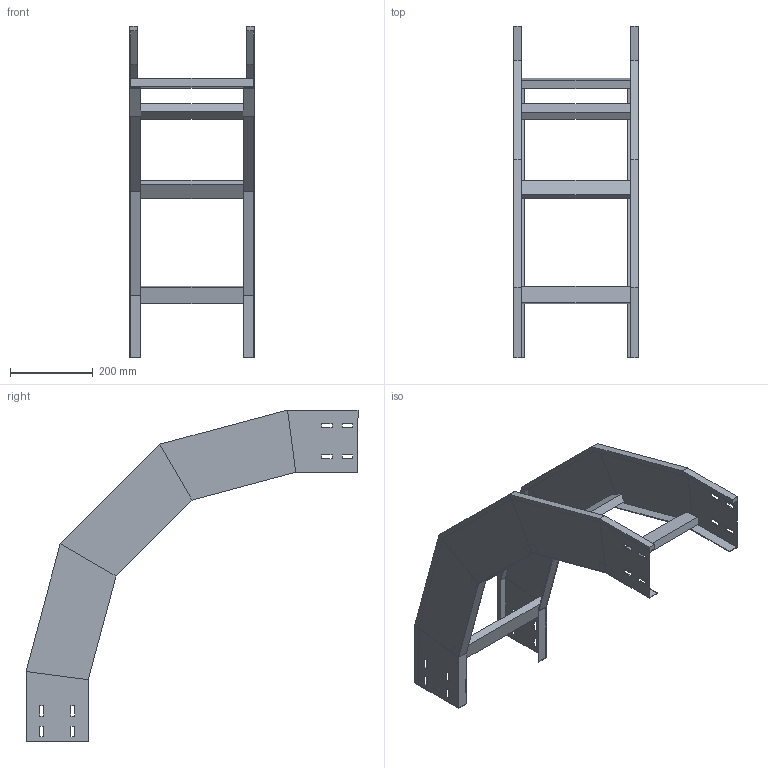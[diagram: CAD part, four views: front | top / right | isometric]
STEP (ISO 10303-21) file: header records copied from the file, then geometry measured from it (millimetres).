
FILE_DESCRIPTION (( 'STEP AP214' ), '1' );
FILE_NAME ('33J5F300.step', '2025-02-21T16:23:02', ( '' ), ( '' ), 'SwSTEP 2.0', 'SolidWorks 2023', '' );
FILE_SCHEMA (( 'AUTOMOTIVE_DESIGN' ));
Length unit declared in the file: millimetre
Products named in the file (3): 33J5F300; LONGH.DISCESA_90°_H150_R500; TRAVERSINO_300
Assembly tree (6 placements, depth 2):
  33J5F300
    LONGH.DISCESA_90°_H150_R500  x2
    TRAVERSINO_300  x4
Bounding box: 300 x 800.35 x 800.35 mm (x, y, z)
Volume: 2279781.6 mm3; surface area: 1066110.1 mm2
Topology: 6 solids, 6 shells, 172 faces, 416 edges, 256 vertices
Faces by surface type: plane 172
Entity records: 2416 total; most frequent: CARTESIAN_POINT 405, ORIENTED_EDGE 392, DIRECTION 374, LINE 196, VECTOR 196, EDGE_CURVE 196, VERTEX_POINT 120, EDGE_LOOP 96
